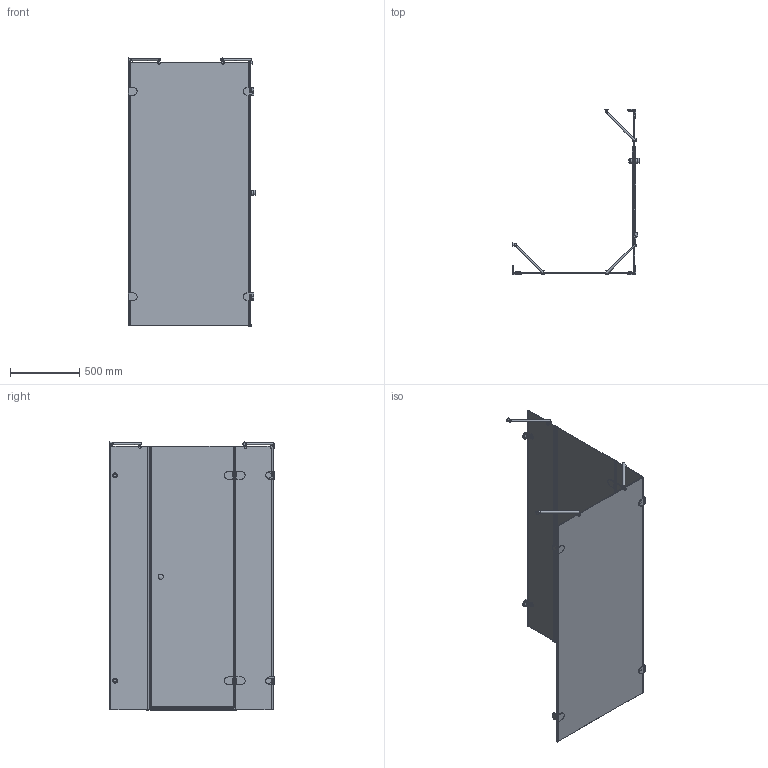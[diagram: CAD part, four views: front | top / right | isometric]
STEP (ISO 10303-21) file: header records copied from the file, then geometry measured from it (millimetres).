
FILE_DESCRIPTION(/* description */ (''),/* implementation_level */ '2;1');
FILE_NAME(/* name */ 'E:\Работа\Сергей\Душевые кабинки\! Работа\++++++++++\LUX RECTAN GK-004B\LUX RECTAN GK-004B левая модель\LUX RECTAN GK-004B ЛЕВАЯ-3D.stp',/* time_stamp */ '2018-02-03T14:16:00+03:00',/* author */ ('PC'),/* organization */ (''),/* preprocessor_version */ 'ST-DEVELOPER v15.2',/* originating_system */ 'Autodesk Inventor 2014',/* authorisation */ '');
FILE_SCHEMA (('AUTOMOTIVE_DESIGN { 1 0 10303 214 3 1 1 }'));
Length unit declared in the file: millimetre
Products named in the file (1): LUX RECTAN GK-004B ЛЕВАЯ-3D
Bounding box: 917.98 x 1193.98 x 1931.5 mm (x, y, z)
Volume: 24526240.7 mm3; surface area: 8367407.7 mm2
Topology: 5 solids, 5 shells, 784 faces, 1976 edges, 1250 vertices
Faces by surface type: plane 524, cylinder 200, torus 22, sphere 16, bspline 14, cone 8
Full cylindrical faces by diameter (mm): 8 x4, 11 x4, 12 x4, 15 x3, 18 x4, 20 x6, 26 x2, 30 x4, 35 x4, 38 x4, 40 x4
Entity records: 24199 total; most frequent: CARTESIAN_POINT 4941, DIRECTION 3815, ORIENTED_EDGE 3714, EDGE_CURVE 1857, LINE 1299, VECTOR 1299, AXIS2_PLACEMENT_3D 1258, VERTEX_POINT 1206
